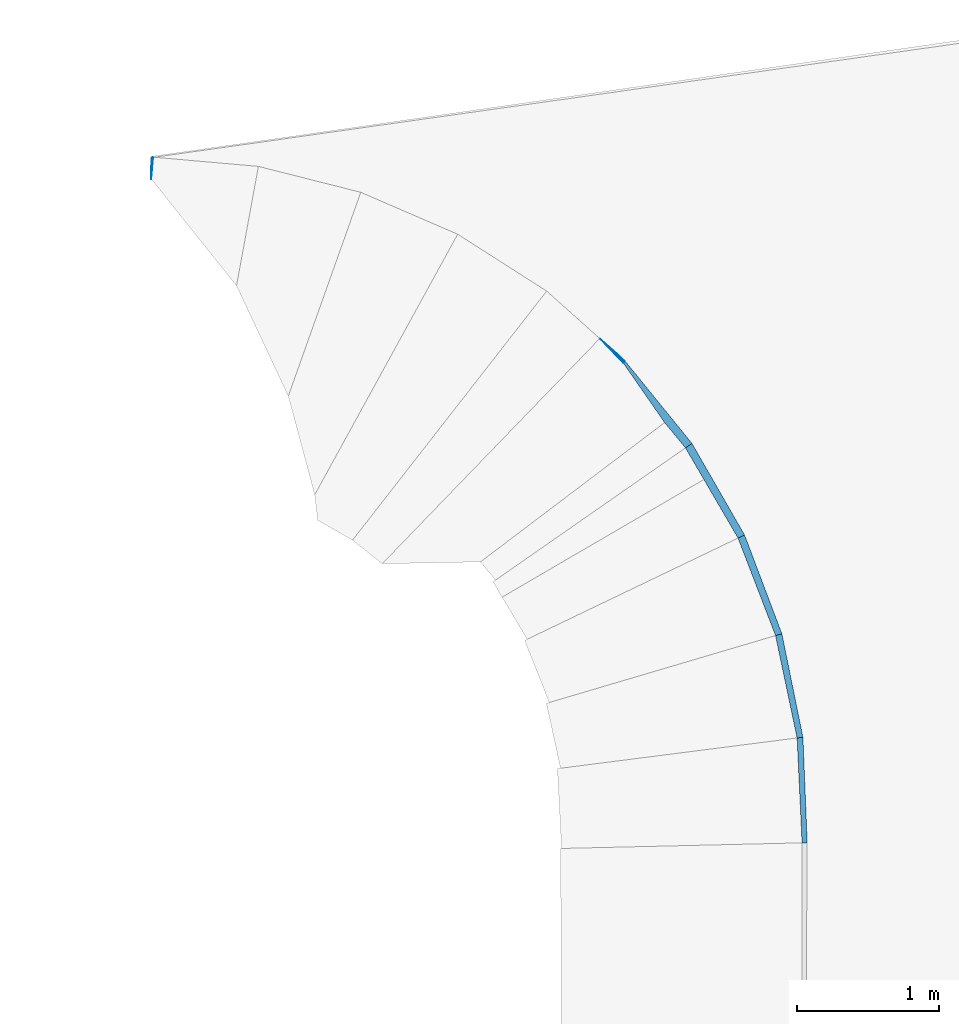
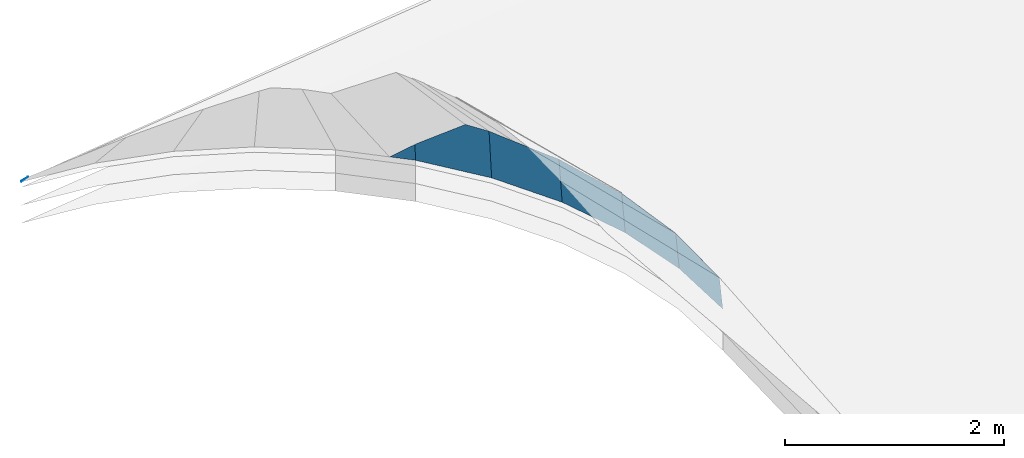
# One storey, part 11 of 14: 7 slabs.
"""IFC2X3 building model written with IfcOpenShell, lengths in metres."""

from ifc_helpers import new_model, si_unit, origin, origin_with_axes, place, context, subcontext, project, spatial, faceted_brep, element, save


model = new_model("IFC2X3")

# Units and contexts
context_of_model = context(None, 3, world=origin_with_axes())
sub_context = subcontext(context_of_model, None, None, "MODEL_VIEW")
ifc_project = project(units=[si_unit("LENGTHUNIT", "METRE"), si_unit("AREAUNIT", "SQUARE_METRE"), si_unit("VOLUMEUNIT", "CUBIC_METRE"), si_unit("PLANEANGLEUNIT", "RADIAN"), si_unit("MASSUNIT", "GRAM", prefix="KILO")])

# Site, building, storey
site_placement = place(None, origin_with_axes())
site = spatial("IfcSite", under=ifc_project, at=site_placement, Name="Site.1", CompositionType="ELEMENT")
building_placement = place(site_placement, origin())
building = spatial("IfcBuilding", under=site, at=building_placement, Name="Building.1", CompositionType="ELEMENT")
storey_placement = place(building_placement, origin())
storey = spatial("IfcBuildingStorey", under=building, at=storey_placement, Name="VRD", CompositionType="ELEMENT")

# Slabs
slab_1_placement = place(storey_placement, origin())
element("IfcSlab", 1, at=slab_1_placement, inside=storey, Name="PJ FINI n°11", PredefinedType="USERDEFINED", context=sub_context, shape_type="Brep", body=[
    faceted_brep([(-16.784878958, 26.871449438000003, 0.373317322), (-16.936952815, 27.593985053, 0.432515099), (-16.892353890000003, 27.606789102, -0.030001), (-16.743708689, 26.876383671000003, -0.040001)], [[[0, 1, 2]], [[2, 3, 0]]]),
])
slab_2_placement = place(storey_placement, origin())
element("IfcSlab", 2, at=slab_2_placement, inside=storey, Name="PJ FINI n°16", PredefinedType="USERDEFINED", context=sub_context, shape_type="Brep", body=[
    faceted_brep([(-17.572974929, 28.918931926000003, 0.546382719), (-17.719913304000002, 29.097642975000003, 0.564501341), (-17.526911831, 28.950456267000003, -0.010001), (-17.996555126, 29.529267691, -1e-06), (-18.000904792, 29.502155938, 0.20435422), (-18.010362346, 29.516132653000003, 0.189957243)], [[[0, 1, 2]], [[3, 2, 1]], [[3, 4, 5]], [[3, 1, 4]]]),
])
slab_3_placement = place(storey_placement, origin())
element("IfcSlab", 3, at=slab_3_placement, inside=storey, Name="PJ FINI n°20", PredefinedType="USERDEFINED", context=sub_context, shape_type="Brep", body=[
    faceted_brep([(-17.155672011, 28.304106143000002, -0.020001), (-17.201949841, 28.282326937, 0.489823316), (-17.442758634, 28.695841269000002, 0.52487026), (-17.572974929, 28.918931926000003, 0.546382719), (-17.526911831, 28.950456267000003, -0.010001)], [[[0, 1, 2]], [[2, 3, 4]], [[0, 2, 4]]]),
])
slab_4_placement = place(storey_placement, origin())
element("IfcSlab", 4, at=slab_4_placement, inside=storey, Name="PJ FINI n°44", PredefinedType="USERDEFINED", context=sub_context, shape_type="Brep", body=[
    faceted_brep([(-17.996555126, 29.529267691, -1e-06), (-18.010362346, 29.516132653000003, 0.189957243), (-18.177652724, 29.690961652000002, 0.003256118)], [[[0, 1, 2]]]),
])
slab_5_placement = place(storey_placement, origin())
element("IfcSlab", 5, at=slab_5_placement, inside=storey, Name="PJ FINI n°67", PredefinedType="USERDEFINED", context=sub_context, shape_type="Brep", body=[
    faceted_brep([(-17.155672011, 28.304106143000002, -0.020001), (-16.892353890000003, 27.606789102, -0.030001), (-16.936952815, 27.593985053, 0.432515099), (-17.201949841, 28.282326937, 0.489823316)], [[[0, 1, 2]], [[2, 3, 0]]]),
])
slab_6_placement = place(storey_placement, origin())
element("IfcSlab", 6, at=slab_6_placement, inside=storey, Name="PJ FINI n°92", PredefinedType="USERDEFINED", context=sub_context, shape_type="Brep", body=[
    faceted_brep([(-16.713547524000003, 26.131616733, -0.050001), (-16.784878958, 26.871449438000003, 0.373317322), (-16.743708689, 26.876383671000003, -0.040001), (-16.74991117, 26.131061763, 0.313574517), (-16.74991117, 26.131061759, 0.313574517)], [[[0, 1, 2]], [[0, 3, 1]], [[0, 4, 3]]]),
])
slab_7_placement = place(storey_placement, origin())
element("IfcSlab", 7, at=slab_7_placement, inside=storey, Name="PJ FINI n°101", PredefinedType="USERDEFINED", context=sub_context, shape_type="Brep", body=[
    faceted_brep([(-21.329879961, 30.971171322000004, 0.049999), (-21.343513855, 30.816073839, 0.205694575), (-21.343953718, 30.819114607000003, 0.203332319), (-21.340660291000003, 30.970886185, 0.060783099)], [[[0, 1, 2]], [[0, 2, 3]]]),
])

save(model, "model.ifc")
